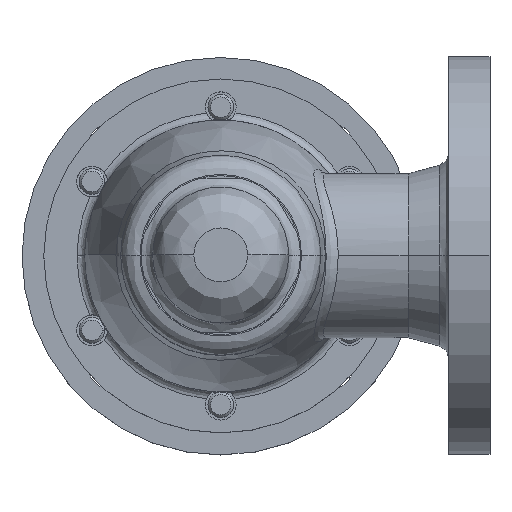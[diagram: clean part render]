
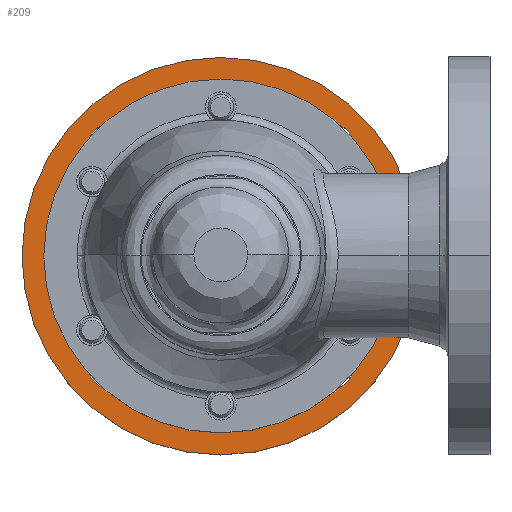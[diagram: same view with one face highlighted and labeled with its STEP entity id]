
A CAD part, top view. The second image highlights one B-rep face of the part: STEP entity #209.
In plain terms, the highlighted planar face has unit normal (0, 0, 1).
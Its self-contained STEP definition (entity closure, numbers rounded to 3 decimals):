
#209=ADVANCED_FACE('',(#503,#504,#505,#506,#507,#508),#502,.F.);
#502=PLANE('',#2301);
#503=FACE_OUTER_BOUND('',#2302,.T.);
#504=FACE_BOUND('',#2303,.T.);
#505=FACE_BOUND('',#2304,.T.);
#506=FACE_BOUND('',#2305,.T.);
#507=FACE_BOUND('',#2306,.T.);
#508=FACE_BOUND('',#2307,.T.);
#2298=CARTESIAN_POINT('',(165.,-144.234,-116.));
#2299=DIRECTION('',(0.,0.,-1.));
#2300=DIRECTION('',(-1.,0.,0.));
#2301=AXIS2_PLACEMENT_3D('',#2298,#2299,#2300);
#2302=EDGE_LOOP('',(#3392,#3393));
#2303=EDGE_LOOP('',(#3394,#3395));
#2304=EDGE_LOOP('',(#3396,#3397));
#2305=EDGE_LOOP('',(#3398,#3399));
#2306=EDGE_LOOP('',(#3400,#3401));
#2307=EDGE_LOOP('',(#3402,#3403));
#3392=ORIENTED_EDGE('',*,*,#4126,.F.);
#3393=ORIENTED_EDGE('',*,*,#4127,.F.);
#3394=ORIENTED_EDGE('',*,*,#4128,.T.);
#3395=ORIENTED_EDGE('',*,*,#4129,.T.);
#3396=ORIENTED_EDGE('',*,*,#4130,.T.);
#3397=ORIENTED_EDGE('',*,*,#4131,.T.);
#3398=ORIENTED_EDGE('',*,*,#4132,.T.);
#3399=ORIENTED_EDGE('',*,*,#4133,.T.);
#3400=ORIENTED_EDGE('',*,*,#4134,.T.);
#3401=ORIENTED_EDGE('',*,*,#4135,.T.);
#3402=ORIENTED_EDGE('',*,*,#4136,.T.);
#3403=ORIENTED_EDGE('',*,*,#4137,.T.);
#4126=EDGE_CURVE('',#4924,#4925,#4926,.T.);
#4127=EDGE_CURVE('',#4925,#4924,#4932,.T.);
#4128=EDGE_CURVE('',#4938,#4939,#4940,.T.);
#4129=EDGE_CURVE('',#4939,#4938,#4946,.T.);
#4130=EDGE_CURVE('',#4952,#4953,#4954,.T.);
#4131=EDGE_CURVE('',#4953,#4952,#4960,.T.);
#4132=EDGE_CURVE('',#4966,#4967,#4968,.T.);
#4133=EDGE_CURVE('',#4967,#4966,#4974,.T.);
#4134=EDGE_CURVE('',#4980,#4981,#4982,.T.);
#4135=EDGE_CURVE('',#4981,#4980,#4988,.T.);
#4136=EDGE_CURVE('',#4994,#4995,#4996,.T.);
#4137=EDGE_CURVE('',#4995,#4994,#5002,.T.);
#4924=VERTEX_POINT('',#7485);
#4925=VERTEX_POINT('',#7486);
#4926=CIRCLE('',#7490,77.5);
#4932=CIRCLE('',#7494,77.5);
#4938=VERTEX_POINT('',#7495);
#4939=VERTEX_POINT('',#7496);
#4940=CIRCLE('',#7500,9.5);
#4946=CIRCLE('',#7504,9.5);
#4952=VERTEX_POINT('',#7505);
#4953=VERTEX_POINT('',#7506);
#4954=CIRCLE('',#7510,9.5);
#4960=CIRCLE('',#7514,9.5);
#4966=VERTEX_POINT('',#7515);
#4967=VERTEX_POINT('',#7516);
#4968=CIRCLE('',#7520,9.5);
#4974=CIRCLE('',#7524,9.5);
#4980=VERTEX_POINT('',#7525);
#4981=VERTEX_POINT('',#7526);
#4982=CIRCLE('',#7530,9.5);
#4988=CIRCLE('',#7534,9.5);
#4994=VERTEX_POINT('',#7535);
#4995=VERTEX_POINT('',#7536);
#4996=CIRCLE('',#7540,38.57);
#5002=CIRCLE('',#7544,38.57);
#7485=CARTESIAN_POINT('',(77.5,0.,-116.));
#7486=CARTESIAN_POINT('',(-77.5,0.,-116.));
#7487=CARTESIAN_POINT('',(0.,0.,-116.));
#7488=DIRECTION('',(0.,0.,-1.));
#7489=DIRECTION('',(-1.,0.,0.));
#7490=AXIS2_PLACEMENT_3D('',#7487,#7488,#7489);
#7491=CARTESIAN_POINT('',(0.,0.,-116.));
#7492=DIRECTION('',(0.,0.,-1.));
#7493=DIRECTION('',(-1.,0.,0.));
#7494=AXIS2_PLACEMENT_3D('',#7491,#7492,#7493);
#7495=CARTESIAN_POINT('',(-51.926,42.426,-116.));
#7496=CARTESIAN_POINT('',(-32.926,42.426,-116.));
#7497=CARTESIAN_POINT('',(-42.426,42.426,-116.));
#7498=DIRECTION('',(0.,0.,-1.));
#7499=DIRECTION('',(-1.,0.,0.));
#7500=AXIS2_PLACEMENT_3D('',#7497,#7498,#7499);
#7501=CARTESIAN_POINT('',(-42.426,42.426,-116.));
#7502=DIRECTION('',(0.,0.,-1.));
#7503=DIRECTION('',(-1.,0.,0.));
#7504=AXIS2_PLACEMENT_3D('',#7501,#7502,#7503);
#7505=CARTESIAN_POINT('',(-51.926,-42.426,-116.));
#7506=CARTESIAN_POINT('',(-32.926,-42.426,-116.));
#7507=CARTESIAN_POINT('',(-42.426,-42.426,-116.));
#7508=DIRECTION('',(0.,0.,-1.));
#7509=DIRECTION('',(-1.,0.,0.));
#7510=AXIS2_PLACEMENT_3D('',#7507,#7508,#7509);
#7511=CARTESIAN_POINT('',(-42.426,-42.426,-116.));
#7512=DIRECTION('',(0.,0.,-1.));
#7513=DIRECTION('',(-1.,0.,0.));
#7514=AXIS2_PLACEMENT_3D('',#7511,#7512,#7513);
#7515=CARTESIAN_POINT('',(32.926,-42.426,-116.));
#7516=CARTESIAN_POINT('',(51.926,-42.426,-116.));
#7517=CARTESIAN_POINT('',(42.426,-42.426,-116.));
#7518=DIRECTION('',(0.,0.,-1.));
#7519=DIRECTION('',(-1.,0.,0.));
#7520=AXIS2_PLACEMENT_3D('',#7517,#7518,#7519);
#7521=CARTESIAN_POINT('',(42.426,-42.426,-116.));
#7522=DIRECTION('',(0.,0.,-1.));
#7523=DIRECTION('',(-1.,0.,0.));
#7524=AXIS2_PLACEMENT_3D('',#7521,#7522,#7523);
#7525=CARTESIAN_POINT('',(32.926,42.426,-116.));
#7526=CARTESIAN_POINT('',(51.926,42.426,-116.));
#7527=CARTESIAN_POINT('',(42.426,42.426,-116.));
#7528=DIRECTION('',(0.,0.,-1.));
#7529=DIRECTION('',(-1.,0.,0.));
#7530=AXIS2_PLACEMENT_3D('',#7527,#7528,#7529);
#7531=CARTESIAN_POINT('',(42.426,42.426,-116.));
#7532=DIRECTION('',(0.,0.,-1.));
#7533=DIRECTION('',(-1.,0.,0.));
#7534=AXIS2_PLACEMENT_3D('',#7531,#7532,#7533);
#7535=CARTESIAN_POINT('',(-38.57,0.,-116.));
#7536=CARTESIAN_POINT('',(38.57,0.,-116.));
#7537=CARTESIAN_POINT('',(0.,0.,-116.));
#7538=DIRECTION('',(0.,0.,-1.));
#7539=DIRECTION('',(-1.,0.,0.));
#7540=AXIS2_PLACEMENT_3D('',#7537,#7538,#7539);
#7541=CARTESIAN_POINT('',(0.,0.,-116.));
#7542=DIRECTION('',(0.,0.,-1.));
#7543=DIRECTION('',(-1.,0.,0.));
#7544=AXIS2_PLACEMENT_3D('',#7541,#7542,#7543);
